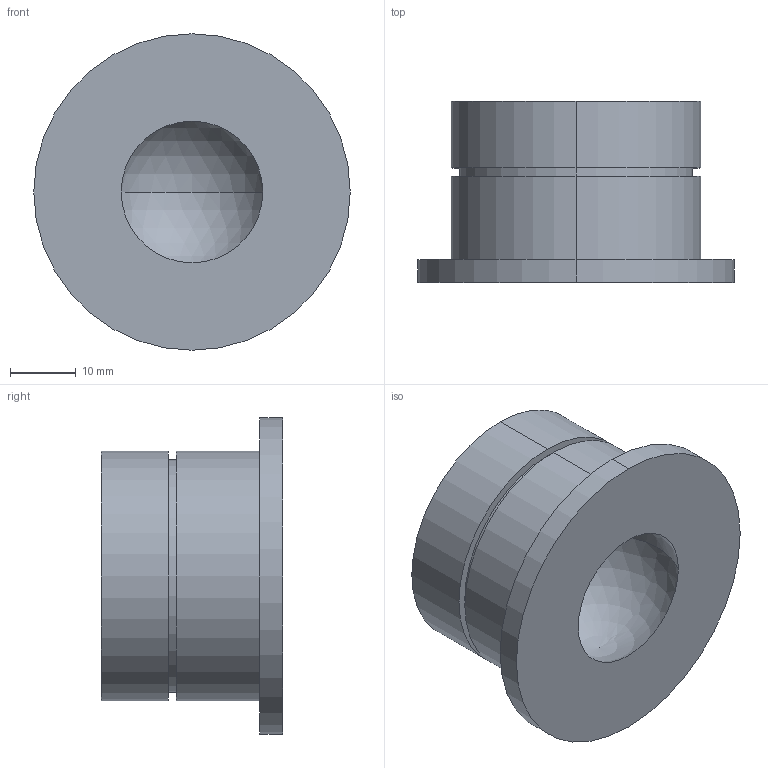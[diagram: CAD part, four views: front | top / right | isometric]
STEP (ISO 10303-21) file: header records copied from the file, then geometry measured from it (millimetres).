
FILE_DESCRIPTION (( 'STEP AP203' ), '1' );
FILE_NAME ('Pacific AC405010 cap.STEP', '2014-07-21T14:47:40', ( 'Marty' ), ( 'LLA' ), 'SwSTEP 2.0', 'SolidWorks 2002296', '' );
FILE_SCHEMA (( 'CONFIG_CONTROL_DESIGN' ));
Length unit declared in the file: inch
Products named in the file (1): Pacific AC405010 cap
Bounding box: 48.26 x 27.64 x 48.26 mm (x, y, z)
Volume: 26814.6 mm3; surface area: 8472.1 mm2
Topology: 1 solids, 1 shells, 15 faces, 33 edges, 22 vertices
Faces by surface type: cylinder 8, plane 5, sphere 2
Entity records: 469 total; most frequent: DIRECTION 80, CARTESIAN_POINT 63, ORIENTED_EDGE 56, AXIS2_PLACEMENT_3D 36, EDGE_CURVE 28, CIRCLE 20, EDGE_LOOP 19, VERTEX_POINT 19
